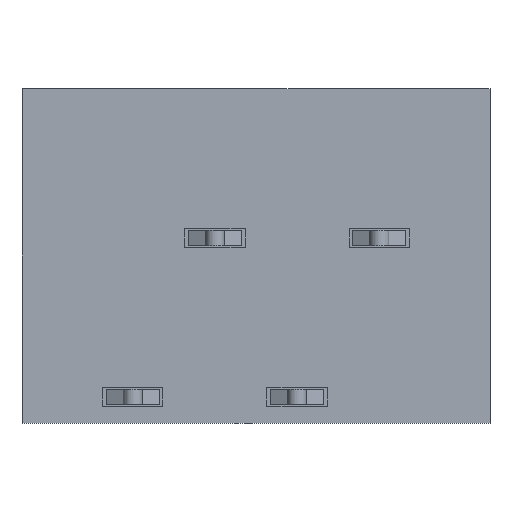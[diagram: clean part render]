
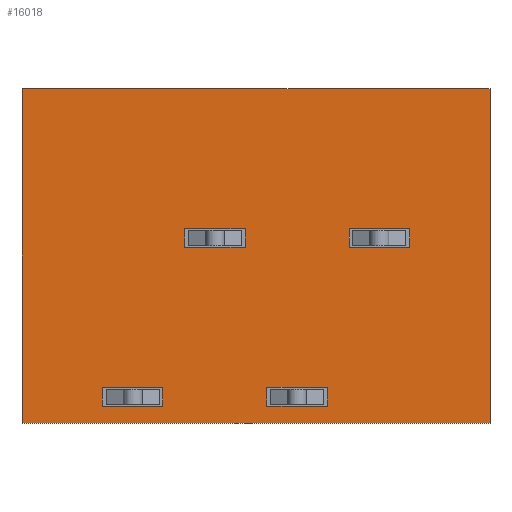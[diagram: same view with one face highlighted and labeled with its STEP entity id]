
A CAD part, front view. The second image highlights one B-rep face of the part: STEP entity #16018.
In plain terms, the highlighted planar face has unit normal (0, -1, 0).
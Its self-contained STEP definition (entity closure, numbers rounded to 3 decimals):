
#1355=VERTEX_POINT('',#22084);
#1356=VERTEX_POINT('',#22086);
#1357=VERTEX_POINT('',#22090);
#1358=VERTEX_POINT('',#22094);
#1527=VERTEX_POINT('',#23454);
#1528=VERTEX_POINT('',#23456);
#1563=VERTEX_POINT('',#23537);
#1564=VERTEX_POINT('',#23538);
#1565=VERTEX_POINT('',#23543);
#1566=VERTEX_POINT('',#23547);
#1596=VERTEX_POINT('',#23630);
#1597=VERTEX_POINT('',#23631);
#1628=VERTEX_POINT('',#23705);
#1629=VERTEX_POINT('',#23706);
#1630=VERTEX_POINT('',#23711);
#1631=VERTEX_POINT('',#23715);
#1820=VERTEX_POINT('',#25117);
#1821=VERTEX_POINT('',#25119);
#1822=VERTEX_POINT('',#25123);
#1823=VERTEX_POINT('',#25127);
#2983=VECTOR('',#17995,1.);
#2985=VECTOR('',#17998,1.);
#2987=VECTOR('',#18001,1.);
#2989=VECTOR('',#18004,1.);
#3183=VECTOR('',#18380,1.);
#3220=VECTOR('',#18429,1.);
#3223=VECTOR('',#18433,1.);
#3225=VECTOR('',#18436,1.);
#3260=VECTOR('',#18488,1.);
#3264=VECTOR('',#18494,1.);
#3298=VECTOR('',#18540,1.);
#3301=VECTOR('',#18544,1.);
#3303=VECTOR('',#18547,1.);
#3305=VECTOR('',#18550,1.);
#3488=VECTOR('',#18909,1.);
#3518=VECTOR('',#18950,1.);
#3520=VECTOR('',#18953,1.);
#3522=VECTOR('',#18956,1.);
#3524=VECTOR('',#18959,1.);
#3525=VECTOR('',#18961,1.);
#4753=LINE('',#22085,#2983);
#4755=LINE('',#22089,#2985);
#4757=LINE('',#22093,#2987);
#4759=LINE('',#22097,#2989);
#4951=LINE('',#23455,#3183);
#4988=LINE('',#23536,#3220);
#4991=LINE('',#23542,#3223);
#4993=LINE('',#23546,#3225);
#5028=LINE('',#23621,#3260);
#5032=LINE('',#23629,#3264);
#5066=LINE('',#23704,#3298);
#5069=LINE('',#23710,#3301);
#5071=LINE('',#23714,#3303);
#5073=LINE('',#23718,#3305);
#5254=LINE('',#25051,#3488);
#5284=LINE('',#25118,#3518);
#5286=LINE('',#25122,#3520);
#5288=LINE('',#25126,#3522);
#5290=LINE('',#25130,#3524);
#5291=LINE('',#25132,#3525);
#6649=EDGE_CURVE('',#1356,#1355,#4753,.T.);
#6651=EDGE_CURVE('',#1357,#1356,#4755,.T.);
#6653=EDGE_CURVE('',#1358,#1357,#4757,.T.);
#6655=EDGE_CURVE('',#1355,#1358,#4759,.T.);
#6940=EDGE_CURVE('',#1528,#1527,#4951,.T.);
#6981=EDGE_CURVE('',#1563,#1564,#4988,.T.);
#6984=EDGE_CURVE('',#1564,#1565,#4991,.T.);
#6986=EDGE_CURVE('',#1566,#1563,#4993,.T.);
#7024=EDGE_CURVE('',#1566,#1565,#5028,.T.);
#7028=EDGE_CURVE('',#1596,#1597,#5032,.T.);
#7066=EDGE_CURVE('',#1628,#1629,#5066,.T.);
#7069=EDGE_CURVE('',#1629,#1630,#5069,.T.);
#7071=EDGE_CURVE('',#1631,#1628,#5071,.T.);
#7073=EDGE_CURVE('',#1528,#1597,#5073,.T.);
#7346=EDGE_CURVE('',#1631,#1630,#5254,.T.);
#7380=EDGE_CURVE('',#1821,#1820,#5284,.T.);
#7382=EDGE_CURVE('',#1822,#1821,#5286,.T.);
#7384=EDGE_CURVE('',#1823,#1822,#5288,.T.);
#7386=EDGE_CURVE('',#1820,#1823,#5290,.T.);
#7387=EDGE_CURVE('',#1527,#1596,#5291,.T.);
#11070=ORIENTED_EDGE('',*,*,#7387,.T.);
#11071=ORIENTED_EDGE('',*,*,#7028,.T.);
#11072=ORIENTED_EDGE('',*,*,#7073,.F.);
#11073=ORIENTED_EDGE('',*,*,#6940,.T.);
#11074=ORIENTED_EDGE('',*,*,#6649,.T.);
#11075=ORIENTED_EDGE('',*,*,#6655,.T.);
#11076=ORIENTED_EDGE('',*,*,#6653,.T.);
#11077=ORIENTED_EDGE('',*,*,#6651,.T.);
#11078=ORIENTED_EDGE('',*,*,#7346,.F.);
#11079=ORIENTED_EDGE('',*,*,#7071,.T.);
#11080=ORIENTED_EDGE('',*,*,#7066,.T.);
#11081=ORIENTED_EDGE('',*,*,#7069,.T.);
#11082=ORIENTED_EDGE('',*,*,#7380,.T.);
#11083=ORIENTED_EDGE('',*,*,#7386,.T.);
#11084=ORIENTED_EDGE('',*,*,#7384,.T.);
#11085=ORIENTED_EDGE('',*,*,#7382,.T.);
#11086=ORIENTED_EDGE('',*,*,#7024,.F.);
#11087=ORIENTED_EDGE('',*,*,#6986,.T.);
#11088=ORIENTED_EDGE('',*,*,#6981,.T.);
#11089=ORIENTED_EDGE('',*,*,#6984,.T.);
#13914=EDGE_LOOP('',(#11070,#11071,#11072,#11073));
#13915=EDGE_LOOP('',(#11074,#11075,#11076,#11077));
#13916=EDGE_LOOP('',(#11078,#11079,#11080,#11081));
#13917=EDGE_LOOP('',(#11082,#11083,#11084,#11085));
#13918=EDGE_LOOP('',(#11086,#11087,#11088,#11089));
#14986=FACE_BOUND('',#13914,.T.);
#14987=FACE_BOUND('',#13915,.T.);
#14988=FACE_BOUND('',#13916,.T.);
#14989=FACE_BOUND('',#13917,.T.);
#14990=FACE_BOUND('',#13918,.T.);
#16018=ADVANCED_FACE('',(#14986,#14987,#14988,#14989,#14990),#29899,.T.);
#16956=AXIS2_PLACEMENT_3D('',#25131,#18960,$);
#17995=DIRECTION('',(-1.,0.,0.));
#17998=DIRECTION('',(0.,0.,-1.));
#18001=DIRECTION('',(1.,0.,0.));
#18004=DIRECTION('',(0.,0.,1.));
#18380=DIRECTION('',(0.,0.,-1.));
#18429=DIRECTION('',(1.,0.,0.));
#18433=DIRECTION('',(0.,0.,-1.));
#18436=DIRECTION('',(0.,0.,1.));
#18488=DIRECTION('',(1.,0.,0.));
#18494=DIRECTION('',(0.,0.,1.));
#18540=DIRECTION('',(1.,0.,0.));
#18544=DIRECTION('',(0.,0.,-1.));
#18547=DIRECTION('',(0.,0.,1.));
#18550=DIRECTION('',(1.,0.,0.));
#18909=DIRECTION('',(1.,0.,0.));
#18950=DIRECTION('',(-1.,0.,0.));
#18953=DIRECTION('',(0.,0.,-1.));
#18956=DIRECTION('',(1.,0.,0.));
#18959=DIRECTION('',(0.,0.,1.));
#18960=DIRECTION('',(0.,-1.,0.));
#18961=DIRECTION('',(1.,0.,0.));
#22084=CARTESIAN_POINT('',(4.25,0.,0.9));
#22085=CARTESIAN_POINT('',(4.05,0.,0.9));
#22086=CARTESIAN_POINT('',(7.45,0.,0.9));
#22089=CARTESIAN_POINT('',(7.45,0.,3.025));
#22090=CARTESIAN_POINT('',(7.45,0.,1.9));
#22093=CARTESIAN_POINT('',(4.05,0.,1.9));
#22094=CARTESIAN_POINT('',(4.25,0.,1.9));
#22097=CARTESIAN_POINT('',(4.25,0.,3.025));
#23454=CARTESIAN_POINT('',(0.,0.,0.));
#23455=CARTESIAN_POINT('',(0.,0.,17.7));
#23456=CARTESIAN_POINT('',(0.,0.,17.7));
#23536=CARTESIAN_POINT('',(8.4,0.,10.3));
#23537=CARTESIAN_POINT('',(8.6,0.,10.3));
#23538=CARTESIAN_POINT('',(11.8,0.,10.3));
#23542=CARTESIAN_POINT('',(11.8,0.,11.65));
#23543=CARTESIAN_POINT('',(11.8,0.,9.3));
#23546=CARTESIAN_POINT('',(8.6,0.,11.65));
#23547=CARTESIAN_POINT('',(8.6,0.,9.3));
#23621=CARTESIAN_POINT('',(2.25,0.,9.3));
#23629=CARTESIAN_POINT('',(24.75,0.,9.3));
#23630=CARTESIAN_POINT('',(24.75,0.,0.));
#23631=CARTESIAN_POINT('',(24.75,0.,17.7));
#23704=CARTESIAN_POINT('',(17.1,0.,10.3));
#23705=CARTESIAN_POINT('',(17.3,0.,10.3));
#23706=CARTESIAN_POINT('',(20.5,0.,10.3));
#23710=CARTESIAN_POINT('',(20.5,0.,11.65));
#23711=CARTESIAN_POINT('',(20.5,0.,9.3));
#23714=CARTESIAN_POINT('',(17.3,0.,11.65));
#23715=CARTESIAN_POINT('',(17.3,0.,9.3));
#23718=CARTESIAN_POINT('',(0.,0.,17.7));
#25051=CARTESIAN_POINT('',(10.95,0.,9.3));
#25117=CARTESIAN_POINT('',(12.95,0.,0.9));
#25118=CARTESIAN_POINT('',(12.75,0.,0.9));
#25119=CARTESIAN_POINT('',(16.15,0.,0.9));
#25122=CARTESIAN_POINT('',(16.15,0.,3.025));
#25123=CARTESIAN_POINT('',(16.15,0.,1.9));
#25126=CARTESIAN_POINT('',(12.75,0.,1.9));
#25127=CARTESIAN_POINT('',(12.95,0.,1.9));
#25130=CARTESIAN_POINT('',(12.95,0.,3.025));
#25131=CARTESIAN_POINT('',(10.95,0.,4.65));
#25132=CARTESIAN_POINT('',(0.,0.,0.));
#29899=PLANE('',#16956);
